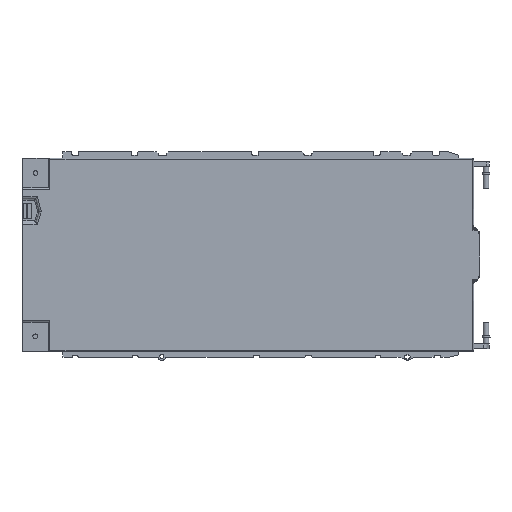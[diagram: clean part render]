
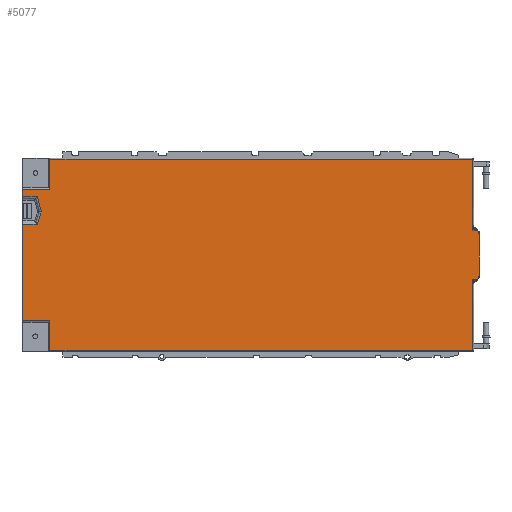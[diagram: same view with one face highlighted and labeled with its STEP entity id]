
A CAD part, front view. The second image highlights one B-rep face of the part: STEP entity #5077.
In plain terms, the highlighted planar face has unit normal (0, -1, 0).
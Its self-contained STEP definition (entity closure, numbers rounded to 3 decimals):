
#159=PLANE('',#5422);
#327=FACE_OUTER_BOUND('',#630,.T.);
#630=EDGE_LOOP('',(#3558,#3559,#3560,#3561,#3562,#3563,#3564,#3565,#3566,
#3567,#3568,#3569,#3570,#3571,#3572,#3573,#3574,#3575,#3576,#3577,#3578));
#902=LINE('',#7929,#1361);
#913=LINE('',#8538,#1372);
#920=LINE('',#8569,#1379);
#921=LINE('',#8572,#1380);
#922=LINE('',#8574,#1381);
#923=LINE('',#8576,#1382);
#924=LINE('',#8578,#1383);
#925=LINE('',#8580,#1384);
#926=LINE('',#8582,#1385);
#927=LINE('',#8584,#1386);
#928=LINE('',#8586,#1387);
#929=LINE('',#8588,#1388);
#930=LINE('',#8590,#1389);
#931=LINE('',#8592,#1390);
#932=LINE('',#8594,#1391);
#933=LINE('',#8596,#1392);
#934=LINE('',#8598,#1393);
#935=LINE('',#8599,#1394);
#936=LINE('',#8600,#1395);
#1361=VECTOR('',#5980,10.);
#1372=VECTOR('',#6063,10.);
#1379=VECTOR('',#6100,10.);
#1380=VECTOR('',#6103,10.);
#1381=VECTOR('',#6104,10.);
#1382=VECTOR('',#6105,10.);
#1383=VECTOR('',#6106,10.);
#1384=VECTOR('',#6107,10.);
#1385=VECTOR('',#6108,10.);
#1386=VECTOR('',#6109,10.);
#1387=VECTOR('',#6110,10.);
#1388=VECTOR('',#6111,10.);
#1389=VECTOR('',#6112,10.);
#1390=VECTOR('',#6113,10.);
#1391=VECTOR('',#6114,10.);
#1392=VECTOR('',#6115,10.);
#1393=VECTOR('',#6116,10.);
#1394=VECTOR('',#6117,10.);
#1395=VECTOR('',#6118,10.);
#1838=CIRCLE('',#5410,3.);
#1845=CIRCLE('',#5423,3.);
#2083=VERTEX_POINT('',#7637);
#2100=VERTEX_POINT('',#7927);
#2118=VERTEX_POINT('',#8321);
#2133=VERTEX_POINT('',#8532);
#2136=VERTEX_POINT('',#8541);
#2137=VERTEX_POINT('',#8543);
#2143=VERTEX_POINT('',#8568);
#2144=VERTEX_POINT('',#8570);
#2145=VERTEX_POINT('',#8573);
#2146=VERTEX_POINT('',#8575);
#2147=VERTEX_POINT('',#8577);
#2148=VERTEX_POINT('',#8579);
#2149=VERTEX_POINT('',#8581);
#2150=VERTEX_POINT('',#8583);
#2151=VERTEX_POINT('',#8585);
#2152=VERTEX_POINT('',#8587);
#2153=VERTEX_POINT('',#8589);
#2154=VERTEX_POINT('',#8591);
#2155=VERTEX_POINT('',#8593);
#2156=VERTEX_POINT('',#8595);
#2157=VERTEX_POINT('',#8597);
#2614=EDGE_CURVE('',#2100,#2083,#902,.T.);
#2671=EDGE_CURVE('',#2118,#2133,#913,.T.);
#2673=EDGE_CURVE('',#2136,#2137,#1838,.T.);
#2686=EDGE_CURVE('',#2143,#2136,#920,.T.);
#2687=EDGE_CURVE('',#2144,#2143,#1845,.T.);
#2688=EDGE_CURVE('',#2133,#2144,#921,.T.);
#2689=EDGE_CURVE('',#2118,#2145,#922,.T.);
#2690=EDGE_CURVE('',#2146,#2145,#923,.T.);
#2691=EDGE_CURVE('',#2147,#2146,#924,.T.);
#2692=EDGE_CURVE('',#2148,#2147,#925,.T.);
#2693=EDGE_CURVE('',#2149,#2148,#926,.T.);
#2694=EDGE_CURVE('',#2150,#2149,#927,.T.);
#2695=EDGE_CURVE('',#2151,#2150,#928,.T.);
#2696=EDGE_CURVE('',#2152,#2151,#929,.T.);
#2697=EDGE_CURVE('',#2153,#2152,#930,.T.);
#2698=EDGE_CURVE('',#2154,#2153,#931,.T.);
#2699=EDGE_CURVE('',#2155,#2154,#932,.T.);
#2700=EDGE_CURVE('',#2156,#2155,#933,.T.);
#2701=EDGE_CURVE('',#2157,#2156,#934,.T.);
#2702=EDGE_CURVE('',#2157,#2083,#935,.T.);
#2703=EDGE_CURVE('',#2137,#2100,#936,.T.);
#3558=ORIENTED_EDGE('',*,*,#2673,.F.);
#3559=ORIENTED_EDGE('',*,*,#2686,.F.);
#3560=ORIENTED_EDGE('',*,*,#2687,.F.);
#3561=ORIENTED_EDGE('',*,*,#2688,.F.);
#3562=ORIENTED_EDGE('',*,*,#2671,.F.);
#3563=ORIENTED_EDGE('',*,*,#2689,.T.);
#3564=ORIENTED_EDGE('',*,*,#2690,.F.);
#3565=ORIENTED_EDGE('',*,*,#2691,.F.);
#3566=ORIENTED_EDGE('',*,*,#2692,.F.);
#3567=ORIENTED_EDGE('',*,*,#2693,.F.);
#3568=ORIENTED_EDGE('',*,*,#2694,.F.);
#3569=ORIENTED_EDGE('',*,*,#2695,.F.);
#3570=ORIENTED_EDGE('',*,*,#2696,.F.);
#3571=ORIENTED_EDGE('',*,*,#2697,.F.);
#3572=ORIENTED_EDGE('',*,*,#2698,.F.);
#3573=ORIENTED_EDGE('',*,*,#2699,.F.);
#3574=ORIENTED_EDGE('',*,*,#2700,.F.);
#3575=ORIENTED_EDGE('',*,*,#2701,.F.);
#3576=ORIENTED_EDGE('',*,*,#2702,.T.);
#3577=ORIENTED_EDGE('',*,*,#2614,.F.);
#3578=ORIENTED_EDGE('',*,*,#2703,.F.);
#5077=ADVANCED_FACE('',(#327),#159,.F.);
#5410=AXIS2_PLACEMENT_3D('',#8544,#6068,#6069);
#5422=AXIS2_PLACEMENT_3D('',#8567,#6098,#6099);
#5423=AXIS2_PLACEMENT_3D('',#8571,#6101,#6102);
#5980=DIRECTION('',(-1.,0.,0.));
#6063=DIRECTION('',(1.,0.,0.));
#6068=DIRECTION('center_axis',(0.,1.,0.));
#6069=DIRECTION('ref_axis',(0.924,0.,-0.383));
#6098=DIRECTION('center_axis',(0.,1.,0.));
#6099=DIRECTION('ref_axis',(1.,0.,0.));
#6100=DIRECTION('',(0.,0.,-1.));
#6101=DIRECTION('center_axis',(0.,1.,0.));
#6102=DIRECTION('ref_axis',(0.924,0.,0.383));
#6103=DIRECTION('',(0.707,0.,-0.707));
#6104=DIRECTION('',(0.,0.,1.));
#6105=DIRECTION('',(1.,0.,0.));
#6106=DIRECTION('',(0.,0.,1.));
#6107=DIRECTION('',(1.,0.,0.));
#6108=DIRECTION('',(0.,0.,1.));
#6109=DIRECTION('',(-1.,0.,0.));
#6110=DIRECTION('',(-0.258,0.,0.966));
#6111=DIRECTION('',(0.323,0.,0.946));
#6112=DIRECTION('',(1.,0.,0.002));
#6113=DIRECTION('',(0.,0.,1.));
#6114=DIRECTION('',(-1.,0.,0.));
#6115=DIRECTION('',(0.,0.,1.));
#6116=DIRECTION('',(-1.,0.,0.));
#6117=DIRECTION('',(0.,0.,1.));
#6118=DIRECTION('',(-0.707,0.,-0.707));
#7637=CARTESIAN_POINT('',(686.,0.,555.5));
#7927=CARTESIAN_POINT('',(691.586,0.,555.5));
#7929=CARTESIAN_POINT('',(521.5,0.,555.5));
#8321=CARTESIAN_POINT('',(686.,0.,627.5));
#8532=CARTESIAN_POINT('',(691.586,0.,627.5));
#8538=CARTESIAN_POINT('',(521.5,0.,627.5));
#8541=CARTESIAN_POINT('',(695.,0.,560.157));
#8543=CARTESIAN_POINT('',(694.121,0.,558.036));
#8544=CARTESIAN_POINT('Origin',(692.,0.,560.157));
#8567=CARTESIAN_POINT('Origin',(356.,0.,591.5));
#8568=CARTESIAN_POINT('',(695.,0.,622.843));
#8569=CARTESIAN_POINT('',(695.,0.,591.5));
#8570=CARTESIAN_POINT('',(694.121,0.,624.964));
#8571=CARTESIAN_POINT('Origin',(692.,0.,622.843));
#8572=CARTESIAN_POINT('',(616.793,0.,702.293));
#8573=CARTESIAN_POINT('',(686.,0.,732.));
#8574=CARTESIAN_POINT('',(686.,0.,662.25));
#8575=CARTESIAN_POINT('',(66.,0.,732.));
#8576=CARTESIAN_POINT('',(190.5,0.,732.));
#8577=CARTESIAN_POINT('',(66.,0.,688.));
#8578=CARTESIAN_POINT('',(66.,0.,662.25));
#8579=CARTESIAN_POINT('',(26.,0.,688.));
#8580=CARTESIAN_POINT('',(210.,0.,688.));
#8581=CARTESIAN_POINT('',(26.,0.,676.956));
#8582=CARTESIAN_POINT('',(26.,0.,520.75));
#8583=CARTESIAN_POINT('',(47.303,0.,676.956));
#8584=CARTESIAN_POINT('',(190.5,0.,676.956));
#8585=CARTESIAN_POINT('',(53.301,0.,654.529));
#8586=CARTESIAN_POINT('',(68.568,0.,597.444));
#8587=CARTESIAN_POINT('',(47.147,0.,636.524));
#8588=CARTESIAN_POINT('',(59.343,0.,672.204));
#8589=CARTESIAN_POINT('',(26.,0.,636.476));
#8590=CARTESIAN_POINT('',(200.452,0.,636.871));
#8591=CARTESIAN_POINT('',(26.,0.,495.));
#8592=CARTESIAN_POINT('',(26.,0.,520.75));
#8593=CARTESIAN_POINT('',(66.,0.,495.));
#8594=CARTESIAN_POINT('',(190.5,0.,495.));
#8595=CARTESIAN_POINT('',(66.,0.,451.));
#8596=CARTESIAN_POINT('',(66.,0.,542.25));
#8597=CARTESIAN_POINT('',(686.,0.,451.));
#8598=CARTESIAN_POINT('',(521.5,0.,451.));
#8599=CARTESIAN_POINT('',(686.,0.,662.25));
#8600=CARTESIAN_POINT('',(616.793,0.,480.707));
